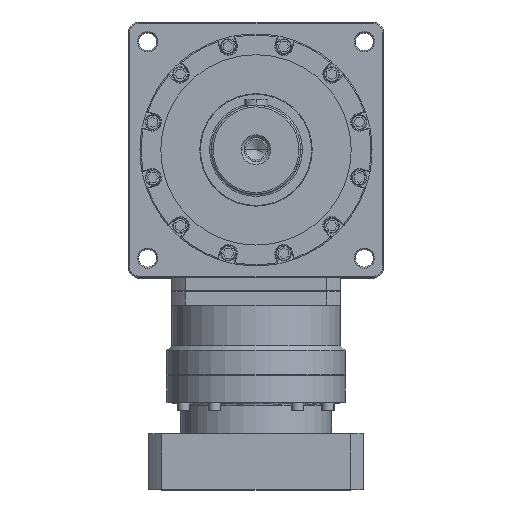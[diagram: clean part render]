
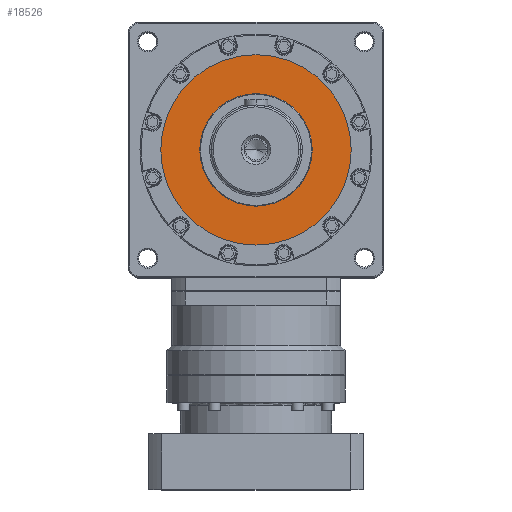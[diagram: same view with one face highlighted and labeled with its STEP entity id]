
A CAD part, top view. The second image highlights one B-rep face of the part: STEP entity #18526.
In plain terms, the highlighted planar face has unit normal (0, 0, 1).
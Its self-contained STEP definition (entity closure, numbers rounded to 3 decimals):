
#969 = ORIENTED_EDGE ( 'NONE', *, *, #4706, .F. ) ;
#1066 = EDGE_LOOP ( 'NONE', ( #969, #12257 ) ) ;
#1389 = VERTEX_POINT ( 'NONE', #1876 ) ;
#1463 = FACE_OUTER_BOUND ( 'NONE', #17970, .T. ) ;
#1471 = CARTESIAN_POINT ( 'NONE',  ( -80., 0., 99. ) ) ;
#1685 = CIRCLE ( 'NONE', #15387, 47.25 ) ;
#1803 = CARTESIAN_POINT ( 'NONE',  ( 0., 0., 99. ) ) ;
#1876 = CARTESIAN_POINT ( 'NONE',  ( 80., 0., 99. ) ) ;
#3661 = CARTESIAN_POINT ( 'NONE',  ( 0., 0., 99. ) ) ;
#4442 = DIRECTION ( 'NONE',  ( 0., 0., 1. ) ) ;
#4551 = CARTESIAN_POINT ( 'NONE',  ( 0., 0., 99. ) ) ;
#4706 = EDGE_CURVE ( 'NONE', #12083, #6180, #1685, .T. ) ;
#4924 = ORIENTED_EDGE ( 'NONE', *, *, #5980, .T. ) ;
#5980 = EDGE_CURVE ( 'NONE', #1389, #11021, #21702, .T. ) ;
#6098 = CARTESIAN_POINT ( 'NONE',  ( 0., 0., 99. ) ) ;
#6180 = VERTEX_POINT ( 'NONE', #18963 ) ;
#6248 = AXIS2_PLACEMENT_3D ( 'NONE', #3661, #9046, #23916 ) ;
#6500 = CIRCLE ( 'NONE', #19817, 47.25 ) ;
#7327 = FACE_BOUND ( 'NONE', #1066, .T. ) ;
#7551 = DIRECTION ( 'NONE',  ( 0., 0., 1. ) ) ;
#8924 = PLANE ( 'NONE',  #6248 ) ;
#9046 = DIRECTION ( 'NONE',  ( 0., 0., 1. ) ) ;
#11021 = VERTEX_POINT ( 'NONE', #1471 ) ;
#11493 = AXIS2_PLACEMENT_3D ( 'NONE', #1803, #7551, #22166 ) ;
#12083 = VERTEX_POINT ( 'NONE', #21715 ) ;
#12108 = EDGE_CURVE ( 'NONE', #11021, #1389, #23358, .T. ) ;
#12116 = EDGE_CURVE ( 'NONE', #6180, #12083, #6500, .T. ) ;
#12257 = ORIENTED_EDGE ( 'NONE', *, *, #12116, .F. ) ;
#15387 = AXIS2_PLACEMENT_3D ( 'NONE', #6098, #22553, #21069 ) ;
#16070 = DIRECTION ( 'NONE',  ( 0., 0., 1. ) ) ;
#16691 = AXIS2_PLACEMENT_3D ( 'NONE', #17797, #4442, #21354 ) ;
#17246 = ORIENTED_EDGE ( 'NONE', *, *, #12108, .T. ) ;
#17797 = CARTESIAN_POINT ( 'NONE',  ( 0., 0., 99. ) ) ;
#17970 = EDGE_LOOP ( 'NONE', ( #4924, #17246 ) ) ;
#18526 = ADVANCED_FACE ( 'NONE', ( #7327, #1463 ), #8924, .T. ) ;
#18963 = CARTESIAN_POINT ( 'NONE',  ( 47.25, 0., 99. ) ) ;
#19622 = DIRECTION ( 'NONE',  ( 1., 0., 0. ) ) ;
#19817 = AXIS2_PLACEMENT_3D ( 'NONE', #4551, #16070, #19622 ) ;
#21069 = DIRECTION ( 'NONE',  ( 1., 0., 0. ) ) ;
#21354 = DIRECTION ( 'NONE',  ( 1., 0., 0. ) ) ;
#21702 = CIRCLE ( 'NONE', #11493, 80. ) ;
#21715 = CARTESIAN_POINT ( 'NONE',  ( -47.25, 0., 99. ) ) ;
#22166 = DIRECTION ( 'NONE',  ( 1., 0., 0. ) ) ;
#22553 = DIRECTION ( 'NONE',  ( 0., 0., 1. ) ) ;
#23358 = CIRCLE ( 'NONE', #16691, 80. ) ;
#23916 = DIRECTION ( 'NONE',  ( 1., 0., 0. ) ) ;
